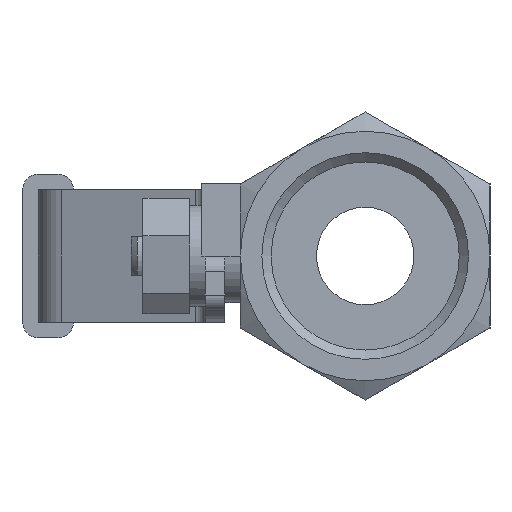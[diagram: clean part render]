
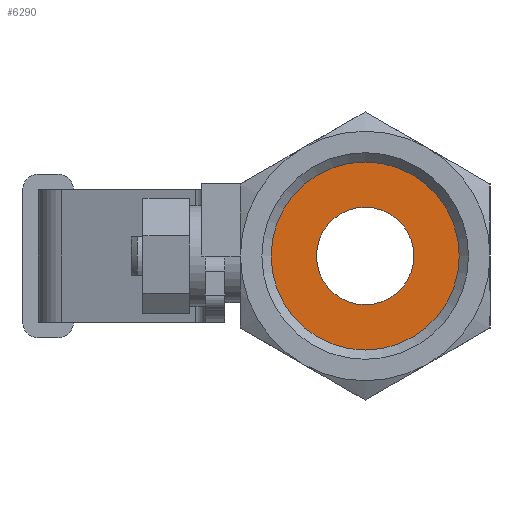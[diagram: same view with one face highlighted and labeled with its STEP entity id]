
A CAD part, left-side view. The second image highlights one B-rep face of the part: STEP entity #6290.
In plain terms, the highlighted planar face has unit normal (-1, 0, 0).
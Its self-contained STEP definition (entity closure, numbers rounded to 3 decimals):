
#192=FACE_BOUND('',#1071,.T.);
#409=PLANE('',#6727);
#710=FACE_OUTER_BOUND('',#1070,.T.);
#1070=EDGE_LOOP('',(#5426));
#1071=EDGE_LOOP('',(#5427));
#2371=CIRCLE('',#6358,6.25);
#2474=CIRCLE('',#6726,12.059);
#2503=VERTEX_POINT('',#8314);
#3010=VERTEX_POINT('',#10185);
#3059=EDGE_CURVE('',#2503,#2503,#2371,.T.);
#3822=EDGE_CURVE('',#3010,#3010,#2474,.T.);
#5426=ORIENTED_EDGE('',*,*,#3822,.T.);
#5427=ORIENTED_EDGE('',*,*,#3059,.T.);
#6290=ADVANCED_FACE('',(#710,#192),#409,.T.);
#6358=AXIS2_PLACEMENT_3D('',#8315,#6803,#6804);
#6726=AXIS2_PLACEMENT_3D('',#10186,#8151,#8152);
#6727=AXIS2_PLACEMENT_3D('',#10188,#8154,#8155);
#6803=DIRECTION('center_axis',(1.,0.,0.));
#6804=DIRECTION('ref_axis',(0.,0.,-1.));
#8151=DIRECTION('center_axis',(-1.,0.,0.));
#8152=DIRECTION('ref_axis',(0.,0.,
1.));
#8154=DIRECTION('center_axis',(-1.,0.,0.));
#8155=DIRECTION('ref_axis',(0.,0.,
1.));
#8314=CARTESIAN_POINT('',(-55.449,-8.504,6.25));
#8315=CARTESIAN_POINT('Origin',(-55.449,-8.504,0.));
#10185=CARTESIAN_POINT('',(-55.449,-8.504,-12.059));
#10186=CARTESIAN_POINT('Origin',(-55.449,-8.504,0.));
#10188=CARTESIAN_POINT('Origin',(-55.449,-8.504,0.));
